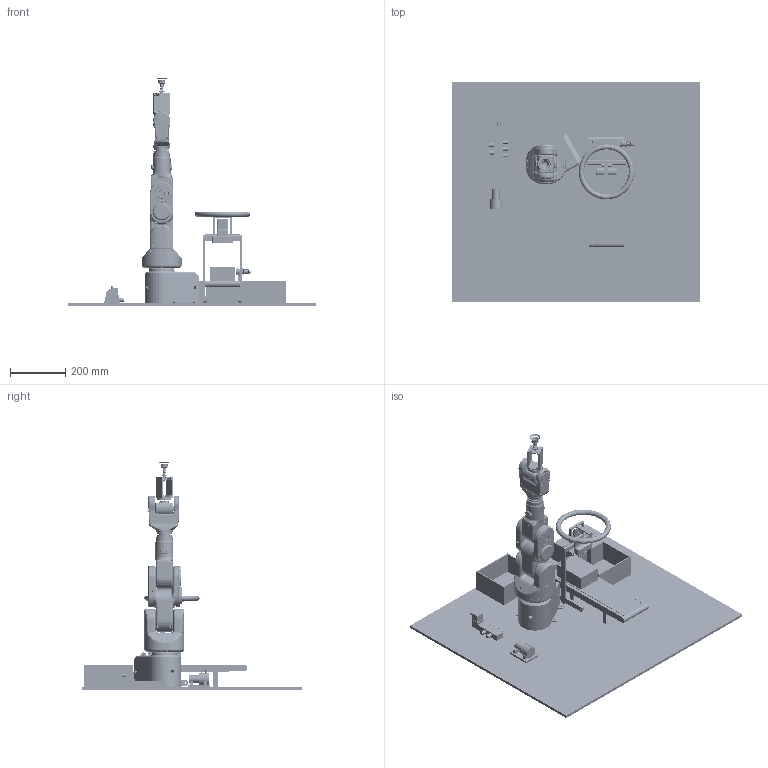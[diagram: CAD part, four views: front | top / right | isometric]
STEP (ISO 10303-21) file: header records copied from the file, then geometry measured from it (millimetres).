
FILE_DESCRIPTION(('Open CASCADE Model'),'2;1');
FILE_NAME('Open CASCADE Shape Model','2026-11-24T09:52:40',('Author'),( 'Open CASCADE'),'Open CASCADE STEP processor 8.0','Open CASCADE 8.0' ,'Unknown');
FILE_SCHEMA(('AUTOMOTIVE_DESIGN { 1 0 10303 214 1 1 1 1 }'));
Length unit declared in the file: millimetre
Products named in the file (278): Tram_phan_loai_tong; Robot_6_truc; AX-1_10; AX-1_11_sua; AX-1_2; AX-1_3_cang_dai_giua_nhanh_J2; AX-1_4; AX-1_6; AX-1_7; AX-1_8; AX-2_1_cang_dai_J3; AX-2_2_sua; AX-2_3; AX-2_4; AX-2_5_mat_bich_J2; AX-3_1; AX-3_2_mat_bich_J3; AX-3_3; AX-3_4; AX-4_1; AX-4_2; AX-4_3; AX-4_4_rut_ngan; AX-4_5; AX-4_6; AX-5_1; AX-5_2; AX-6; ISK_M3x10; ISK_M3x20; ISK_M4x16_DIN912_M4x16; ISK_M5x35_DIN912_J3; ISK_M5x35_DIN912_J2; ISK_M5x25_DIN912_M5x25; Lager_19x5x6; Lager_32x15x9; Lager_32x20x7; Lager_52x40x7; Lager_65x50x7; Lager_78x60x10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
Assembly tree (277 placements, depth 3):
  Tram_phan_loai_tong
    Robot_6_truc
      AX-1_10
      AX-1_11_sua
      AX-1_2
      AX-1_3_cang_dai_giua_nhanh_J2
      AX-1_4
      AX-1_4
      AX-1_6
      AX-1_6
      AX-1_7
      AX-1_8
      AX-2_1_cang_dai_J3
      AX-2_2_sua
      AX-2_3
      AX-2_4
      AX-2_5_mat_bich_J2
      AX-3_1
      AX-3_2_mat_bich_J3
      AX-3_3
      AX-3_4
      AX-3_4
      AX-4_1
      AX-4_2
      AX-4_3
      AX-4_3
      AX-4_4_rut_ngan
      AX-4_5
      AX-4_6
      AX-5_1
      AX-5_2
      AX-6
      ISK_M3x10
      ISK_M3x10
      ISK_M3x10
      ISK_M3x10
      ISK_M3x10
      ISK_M3x10
      ISK_M3x10
      ISK_M3x10
      ISK_M3x10
      ISK_M3x10
      ISK_M3x10
      ISK_M3x10
      ISK_M3x10
      ISK_M3x10
      ISK_M3x10
      ISK_M3x10
      ISK_M3x10
      ISK_M3x10
      ISK_M3x10
      ISK_M3x10
      ISK_M3x20
      ISK_M3x20
      ISK_M3x20
      ISK_M3x20
      ISK_M3x20
      ISK_M3x20
      ISK_M3x20
      ISK_M3x20
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Bounding box: 900 x 800 x 825.5 mm (x, y, z)
Volume: 11838843.2 mm3; surface area: 3536744.4 mm2
Topology: 288 solids, 292 shells, 23067 faces, 50119 edges, 27879 vertices
Faces by surface type: plane 11344, cylinder 6895, torus 3023, bspline 966, cone 650, sphere 178, revolution 11
Full cylindrical faces by diameter (mm): 2.125 x12, 2.35 x28, 2.5 x25, 2.85 x8, 3 x37, 3.4 x4, 3.5 x8, 3.7 x1, 4.2 x7, 4.4 x6, 4.5 x4, 5 x14, 5.5 x2, 6 x6, 6.1 x2, 7 x1, 8 x1, 10 x2, 11 x4, 12 x4, 12.4 x1, 14 x5, 16.7 x4, 16.741 x41, 17.035 x14, 17.884 x40, 18.152 x14, 18.5 x1, 20 x3, 22 x3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
Entity records: 1617666 total; most frequent: CARTESIAN_POINT 662871, DIRECTION 160807, ORIENTED_EDGE 99812, PCURVE 99812, DEFINITIONAL_REPRESENTATION 99812, LINE 79738, VECTOR 79738, EDGE_CURVE 49906
